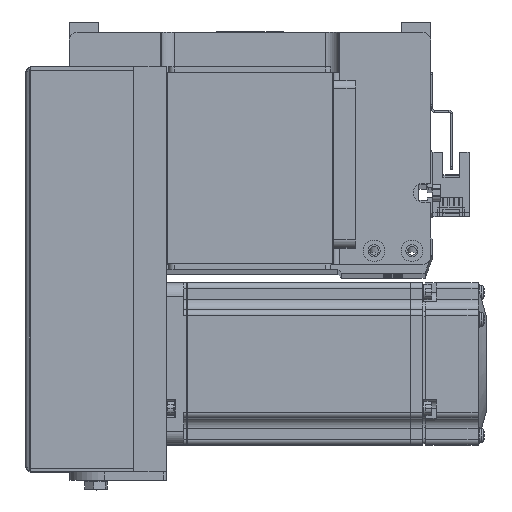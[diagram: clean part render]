
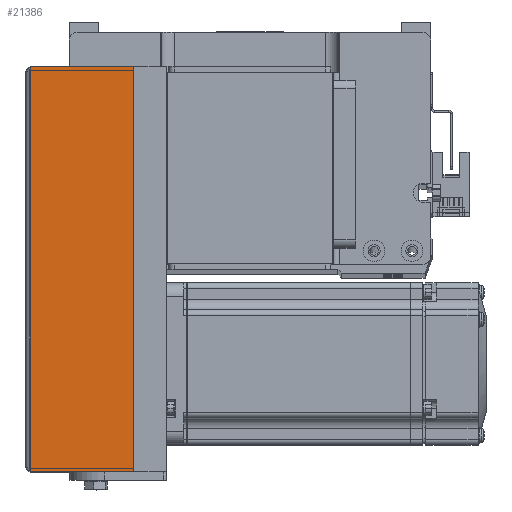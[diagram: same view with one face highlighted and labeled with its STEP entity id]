
A CAD part, top view. The second image highlights one B-rep face of the part: STEP entity #21386.
In plain terms, the highlighted planar face has unit normal (0, 0, 1) as drawn and (0, -1, 0) by its records, which use the part's own axes.
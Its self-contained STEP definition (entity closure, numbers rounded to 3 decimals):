
#1081 = CARTESIAN_POINT ( 'NONE',  ( 0., -36., 50.8 ) ) ;
#2152 = AXIS2_PLACEMENT_3D ( 'NONE', #1081, #10361, #34728 ) ;
#2779 = CARTESIAN_POINT ( 'NONE',  ( 75., -36., 50.3 ) ) ;
#3361 = VECTOR ( 'NONE', #24638, 1000. ) ;
#3474 = CARTESIAN_POINT ( 'NONE',  ( 75., -36., 50.3 ) ) ;
#5958 = VERTEX_POINT ( 'NONE', #36883 ) ;
#6851 = VERTEX_POINT ( 'NONE', #27846 ) ;
#7078 = CARTESIAN_POINT ( 'NONE',  ( -75., -36., 50.3 ) ) ;
#7565 = CARTESIAN_POINT ( 'NONE',  ( 75., -36., 12. ) ) ;
#10361 = DIRECTION ( 'NONE',  ( 0., 1., 0. ) ) ;
#14365 = VERTEX_POINT ( 'NONE', #7565 ) ;
#14772 = VECTOR ( 'NONE', #19812, 1000. ) ;
#19812 = DIRECTION ( 'NONE',  ( 1., 0., 0. ) ) ;
#20739 = EDGE_LOOP ( 'NONE', ( #25576, #26582, #27444, #34132 ) ) ;
#21386 = ADVANCED_FACE ( 'NONE', ( #22646 ), #34540, .F. ) ;
#22646 = FACE_OUTER_BOUND ( 'NONE', #20739, .T. ) ;
#23518 = VECTOR ( 'NONE', #23648, 1000. ) ;
#23648 = DIRECTION ( 'NONE',  ( 0., 0., -1. ) ) ;
#24638 = DIRECTION ( 'NONE',  ( 0., 0., -1. ) ) ;
#25576 = ORIENTED_EDGE ( 'NONE', *, *, #28334, .F. ) ;
#26491 = VECTOR ( 'NONE', #28577, 1000. ) ;
#26582 = ORIENTED_EDGE ( 'NONE', *, *, #30584, .T. ) ;
#27444 = ORIENTED_EDGE ( 'NONE', *, *, #38366, .T. ) ;
#27611 = CARTESIAN_POINT ( 'NONE',  ( -75., -36., 50.3 ) ) ;
#27846 = CARTESIAN_POINT ( 'NONE',  ( -75., -36., 12. ) ) ;
#28334 = EDGE_CURVE ( 'NONE', #28583, #5958, #34922, .T. ) ;
#28577 = DIRECTION ( 'NONE',  ( 1., 0., 0. ) ) ;
#28583 = VERTEX_POINT ( 'NONE', #7078 ) ;
#30360 = LINE ( 'NONE', #27611, #23518 ) ;
#30584 = EDGE_CURVE ( 'NONE', #28583, #6851, #30360, .T. ) ;
#30607 = LINE ( 'NONE', #3474, #3361 ) ;
#32105 = CARTESIAN_POINT ( 'NONE',  ( 0., -36., 12. ) ) ;
#34132 = ORIENTED_EDGE ( 'NONE', *, *, #37708, .F. ) ;
#34540 = PLANE ( 'NONE',  #2152 ) ;
#34728 = DIRECTION ( 'NONE',  ( 0., 0., -1. ) ) ;
#34922 = LINE ( 'NONE', #2779, #26491 ) ;
#35466 = LINE ( 'NONE', #32105, #14772 ) ;
#36883 = CARTESIAN_POINT ( 'NONE',  ( 75., -36., 50.3 ) ) ;
#37708 = EDGE_CURVE ( 'NONE', #5958, #14365, #30607, .T. ) ;
#38366 = EDGE_CURVE ( 'NONE', #6851, #14365, #35466, .T. ) ;
